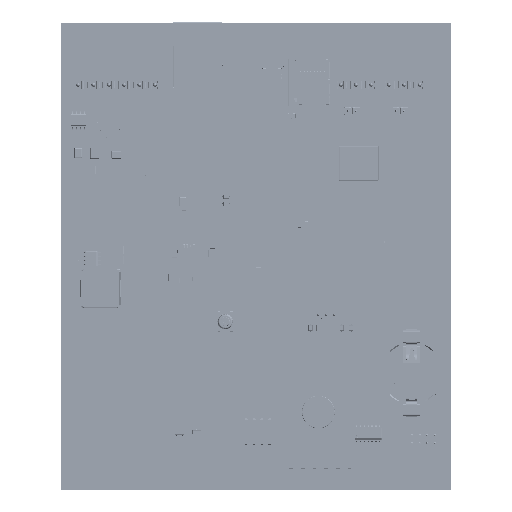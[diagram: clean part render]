
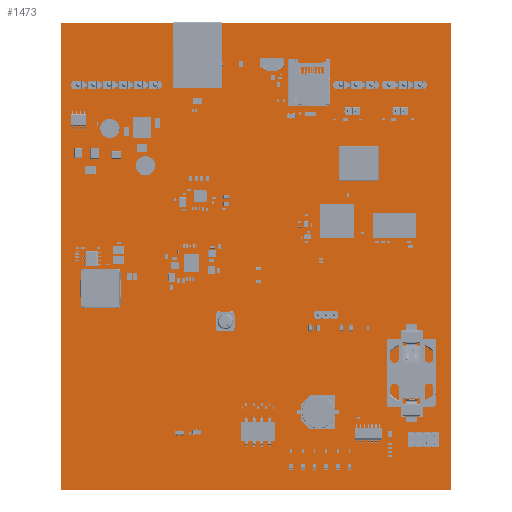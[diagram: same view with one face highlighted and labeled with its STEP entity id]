
A CAD part, top view. The second image highlights one B-rep face of the part: STEP entity #1473.
In plain terms, the highlighted planar face has unit normal (0, 0, 1).
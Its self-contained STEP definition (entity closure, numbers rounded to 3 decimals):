
#1344 = VERTEX_POINT('',#1345);
#1345 = CARTESIAN_POINT('',(0.,0.,1.619));
#1351 = EDGE_CURVE('',#1344,#1352,#1354,.T.);
#1352 = VERTEX_POINT('',#1353);
#1353 = CARTESIAN_POINT('',(127.,0.,1.619));
#1354 = LINE('',#1355,#1356);
#1355 = CARTESIAN_POINT('',(0.,0.,1.619));
#1356 = VECTOR('',#1357,1.);
#1357 = DIRECTION('',(1.,0.,0.));
#1382 = EDGE_CURVE('',#1352,#1383,#1385,.T.);
#1383 = VERTEX_POINT('',#1384);
#1384 = CARTESIAN_POINT('',(127.,152.4,1.619));
#1385 = LINE('',#1386,#1387);
#1386 = CARTESIAN_POINT('',(127.,0.,1.619));
#1387 = VECTOR('',#1388,1.);
#1388 = DIRECTION('',(0.,1.,0.));
#1413 = EDGE_CURVE('',#1383,#1414,#1416,.T.);
#1414 = VERTEX_POINT('',#1415);
#1415 = CARTESIAN_POINT('',(0.,152.4,1.619));
#1416 = LINE('',#1417,#1418);
#1417 = CARTESIAN_POINT('',(127.,152.4,1.619));
#1418 = VECTOR('',#1419,1.);
#1419 = DIRECTION('',(-1.,0.,0.));
#1444 = EDGE_CURVE('',#1414,#1344,#1445,.T.);
#1445 = LINE('',#1446,#1447);
#1446 = CARTESIAN_POINT('',(0.,152.4,1.619));
#1447 = VECTOR('',#1448,1.);
#1448 = DIRECTION('',(0.,-1.,0.));
#1473 = ADVANCED_FACE('',(#1474),#1480,.T.);
#1474 = FACE_BOUND('',#1475,.T.);
#1475 = EDGE_LOOP('',(#1476,#1477,#1478,#1479));
#1476 = ORIENTED_EDGE('',*,*,#1351,.T.);
#1477 = ORIENTED_EDGE('',*,*,#1382,.T.);
#1478 = ORIENTED_EDGE('',*,*,#1413,.T.);
#1479 = ORIENTED_EDGE('',*,*,#1444,.T.);
#1480 = PLANE('',#1481);
#1481 = AXIS2_PLACEMENT_3D('',#1482,#1483,#1484);
#1482 = CARTESIAN_POINT('',(63.5,76.2,1.619));
#1483 = DIRECTION('',(0.,0.,1.));
#1484 = DIRECTION('',(1.,0.,-0.));
